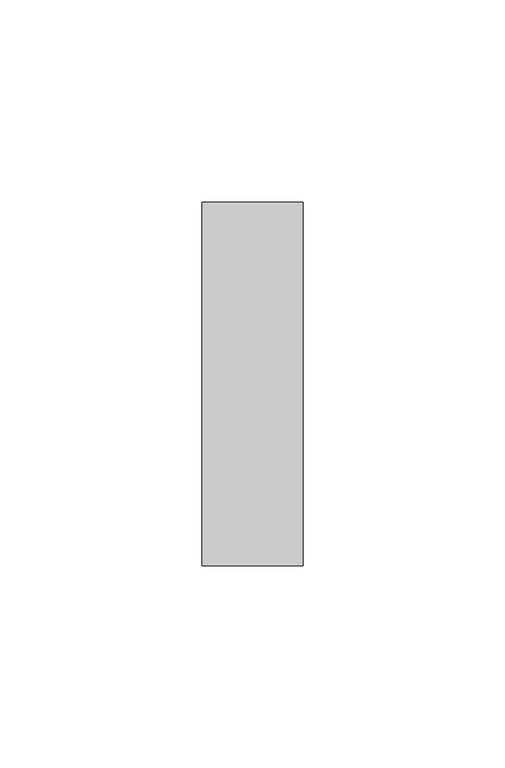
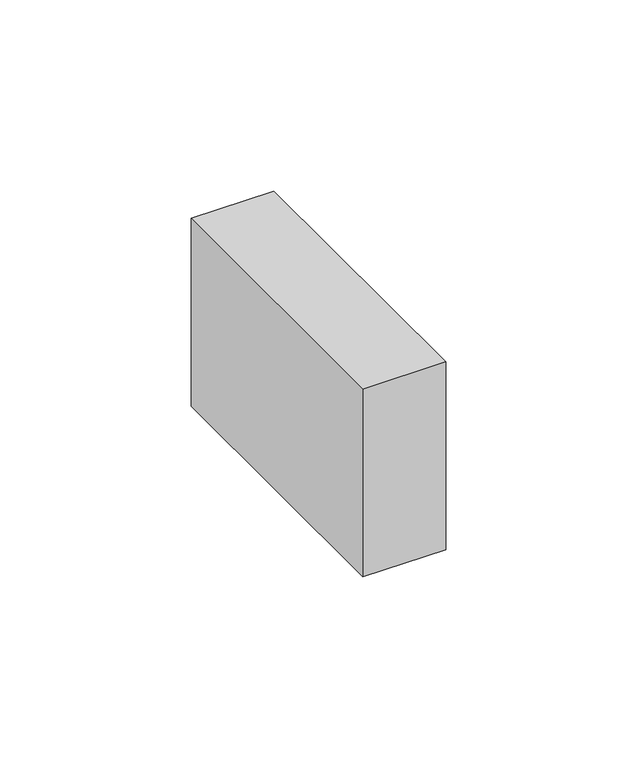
"""IFC4 building model written with IfcOpenShell, lengths in millimetres: duct fitting geometry, КНС_Заглушка_DKC : Стандартное."""

from ifc_helpers import new_model, si_unit, frame, origin, place, context, project, spatial, polyline, outline, extrude, source, transform, mapped, element, save


def duct_fitting_0bfde9ad(model_context):
    return source(origin(), model_context, "Body", "SweptSolid", [
        extrude(outline(polyline([(0.0, -45.0), (0.0, 45.0), (25.0, 45.0), (25.0, -45.0), (0.0, -45.0)])), frame((0.0, 0.0, -30.0), z_axis=(0.0, 0.0, 1.0), x_axis=(1.0, 0.0, 0.0)), (0.0, 0.0, 1.0), 60.0),
    ])


if __name__ == "__main__":
    model = new_model("IFC4")
    model_context = context("Model", 3, world=origin())
    ifc_project = project(units=[si_unit("LENGTHUNIT", "METRE", prefix="MILLI")], contexts=[model_context])
    site = spatial("IfcSite", under=ifc_project)
    building = spatial("IfcBuilding", under=site)
    placement = place(None, origin())
    duct_fitting_shape = duct_fitting_0bfde9ad(model_context)
    element("IfcDuctFitting", 1, ObjectType="КНС_Заглушка_DKC : Стандартное", at=placement, inside=building, context=model_context, shape_type="MappedRepresentation", body=[
        mapped(duct_fitting_shape, transform((0.0, 0.0, 0.0), x_axis=(1.0, 0.0, 0.0), y_axis=(0.0, 1.0, 0.0), z_axis=(0.0, 0.0, 1.0))),
    ])
    save(model, "model.ifc")
